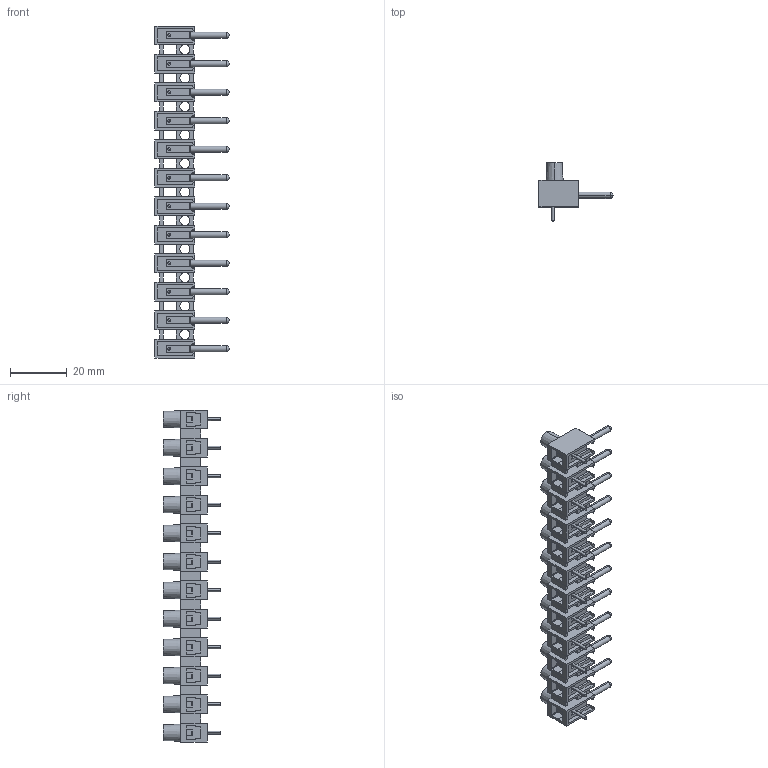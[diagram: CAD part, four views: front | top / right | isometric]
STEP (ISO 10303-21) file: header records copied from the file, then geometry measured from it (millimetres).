
FILE_DESCRIPTION (( 'STEP AP214' ), '1' );
FILE_NAME ('322-SVG-DS-12.STEP', '2007-10-23T00:59:40', ( ' ' ), ( '' ), 'SwSTEP 2.0', 'SolidWorks 2007', '' );
FILE_SCHEMA (( 'AUTOMOTIVE_DESIGN' ));
Length unit declared in the file: millimetre
Products named in the file (1): 322-SVG-DS-12
Bounding box: 26 x 20.3 x 116.5 mm (x, y, z)
Volume: 10672.7 mm3; surface area: 13321.5 mm2
Topology: 1 solids, 1 shells, 1264 faces, 3616 edges, 2344 vertices
Faces by surface type: plane 738, cylinder 334, cone 108, sphere 60, torus 24
Entity records: 42115 total; most frequent: CARTESIAN_POINT 8689, ORIENTED_EDGE 7136, DIRECTION 6874, EDGE_CURVE 3568, VECTOR 2360, LINE 2360, VERTEX_POINT 2320, AXIS2_PLACEMENT_3D 2257
